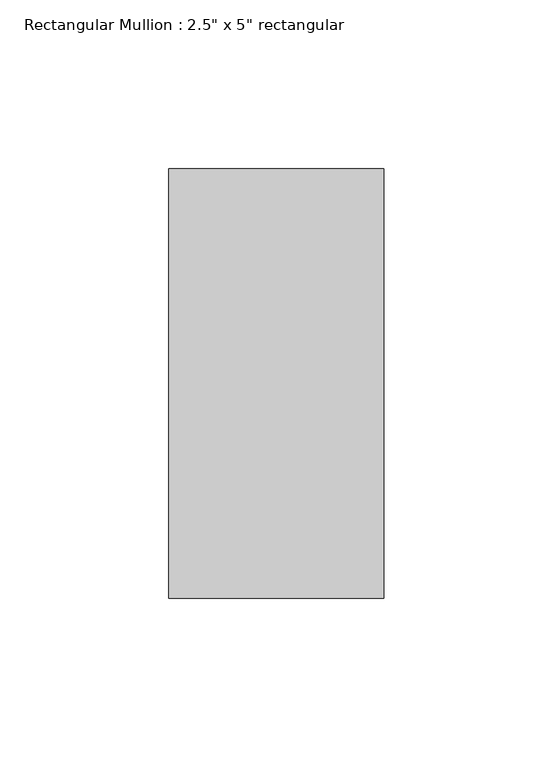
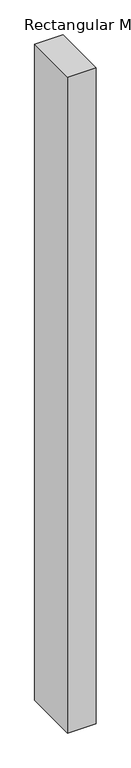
"""IFC4 building model written with IfcOpenShell, lengths in millimetres: member geometry."""

import ifcopenshell
import ifcopenshell.guid

model = None  # the IFC model being written
_history = None  # IfcOwnerHistory: only IFC2X3 demands one
_inside = {}  # id of a spatial element -> (the spatial element, [elements in it])
_under = {}  # id of a project, library or spatial element -> (it, [spatial elements below it])
_declared = {}  # id of a project -> (the project, [libraries it declares])
_typed = {}  # id of a type object -> (the type object, [elements of that type])
_made_of = {}  # id of a material, layer set ... -> (it, [elements and type objects made of it])


def new_model(schema):
    """Start an empty IFC model of exactly this schema.

    Asked for "IFC4X3", IfcOpenShell would pick the latest addendum, in which some entities
    have other attributes; the version numbers below select the first issue.
    IFC2X3 requires an IfcOwnerHistory on every rooted entity: one is made here for all.
    """
    global model, _history
    if schema == "IFC4X3":
        model = ifcopenshell.file(schema_version=(4, 3, 0, 0))
    else:
        model = ifcopenshell.file(schema=schema)
    _inside.clear()
    _under.clear()
    _declared.clear()
    _typed.clear()
    _made_of.clear()
    _history = None
    if model.schema == "IFC2X3":
        org = make("IfcOrganization", Name="unknown")
        user = make(
            "IfcPersonAndOrganization",
            ThePerson=make("IfcPerson", FamilyName="unknown"),
            TheOrganization=org,
        )
        app = make(
            "IfcApplication",
            ApplicationDeveloper=org,
            Version="unknown",
            ApplicationFullName="unknown",
            ApplicationIdentifier="unknown",
        )
        _history = make(
            "IfcOwnerHistory",
            OwningUser=user,
            OwningApplication=app,
            ChangeAction="ADDED",
            CreationDate=0,
        )
    return model


def make(cls, **values):
    """One entity of the class cls with the attributes given. An attribute that is None is left unset."""
    return model.create_entity(
        cls, **{name: value for name, value in values.items() if value is not None}
    )


def rooted(cls, **values):
    """An entity with a GlobalId (a new one), such as an element, a storey or a relation."""
    return make(cls, GlobalId=ifcopenshell.guid.new(), OwnerHistory=_history, **values)


def si_unit(unit_type, name, prefix=None):
    """IfcSIUnit, for example si_unit("LENGTHUNIT", "METRE", prefix="MILLI")."""
    return make("IfcSIUnit", UnitType=unit_type, Prefix=prefix, Name=name)


def assignment(units):
    """IfcUnitAssignment: the units of a project."""
    return None if units is None else make("IfcUnitAssignment", Units=units)


def point(xyz):
    """IfcCartesianPoint."""
    return None if xyz is None else make("IfcCartesianPoint", Coordinates=xyz)


def direction(xyz):
    """IfcDirection."""
    return None if xyz is None else make("IfcDirection", DirectionRatios=xyz)


def frame(location, z_axis=None, x_axis=None):
    """IfcAxis2Placement3D, a coordinate frame: its origin and axes. An axis left out is left unset."""
    return make(
        "IfcAxis2Placement3D",
        Location=point(location),
        Axis=direction(z_axis),
        RefDirection=direction(x_axis),
    )


def origin():
    """The frame at (0, 0, 0) with its axes left unset."""
    return frame((0.0, 0.0, 0.0))


def place(relative_to, where):
    """IfcLocalPlacement: puts the frame where relative to a parent placement (None: the world)."""
    return make(
        "IfcLocalPlacement", PlacementRelTo=relative_to, RelativePlacement=where
    )


def context(
    kind, dimensions, precision=None, world=None, true_north=None, identifier=None
):
    """IfcGeometricRepresentationContext, for example the 3D "Model" context."""
    return make(
        "IfcGeometricRepresentationContext",
        ContextIdentifier=identifier,
        ContextType=kind,
        CoordinateSpaceDimension=dimensions,
        Precision=precision,
        WorldCoordinateSystem=world,
        TrueNorth=true_north,
    )


def project(units=None, contexts=None):
    """IfcProject with its units and contexts."""
    return rooted(
        "IfcProject",
        Name="project",
        RepresentationContexts=contexts,
        UnitsInContext=assignment(units),
    )


def spatial(cls, under=None, at=None, **own):
    """A site, building, storey or space (cls), placed at a placement, below another one or the project."""
    s = rooted(cls, ObjectPlacement=at, **own)
    if under is not None:
        _under.setdefault(under.id(), (under, []))[1].append(s)
    return s


def polyline(points):
    """IfcPolyline through the points."""
    return make("IfcPolyline", Points=[point(p) for p in points])


def outline(outer, holes=None, kind="AREA"):
    """IfcArbitraryClosedProfileDef: a profile drawn as a closed curve; with holes, ...WithVoids."""
    if holes is None:
        return make("IfcArbitraryClosedProfileDef", ProfileType=kind, OuterCurve=outer)
    return make(
        "IfcArbitraryProfileDefWithVoids",
        ProfileType=kind,
        OuterCurve=outer,
        InnerCurves=holes,
    )


def extrude(swept, where, along, depth):
    """IfcExtrudedAreaSolid: the profile swept, set in the frame where, extruded along a direction by depth."""
    return make(
        "IfcExtrudedAreaSolid",
        SweptArea=swept,
        Position=where,
        ExtrudedDirection=direction(along),
        Depth=depth,
    )


def shape(context_of_items, identifier, shape_type, items):
    """IfcShapeRepresentation: the items that make up one representation, for example the "Body"."""
    return make(
        "IfcShapeRepresentation",
        ContextOfItems=context_of_items,
        RepresentationIdentifier=identifier,
        RepresentationType=shape_type,
        Items=items,
    )


def source(mapping_origin, context_of_items, identifier, shape_type, items):
    """IfcRepresentationMap: a shape defined once, which mapped items show again and again."""
    return make(
        "IfcRepresentationMap",
        MappingOrigin=mapping_origin,
        MappedRepresentation=shape(context_of_items, identifier, shape_type, items),
    )


def transform(
    local_origin,
    x_axis=None,
    y_axis=None,
    z_axis=None,
    scale=None,
    scale2=None,
    scale3=None,
    uniform=True,
):
    """IfcCartesianTransformationOperator3D, or its non-uniform kind. x_axis, y_axis, z_axis: its Axis1, 2, 3."""
    if uniform:
        return make(
            "IfcCartesianTransformationOperator3D",
            Axis1=direction(x_axis),
            Axis2=direction(y_axis),
            LocalOrigin=point(local_origin),
            Scale=scale,
            Axis3=direction(z_axis),
        )
    return make(
        "IfcCartesianTransformationOperator3DnonUniform",
        Axis1=direction(x_axis),
        Axis2=direction(y_axis),
        LocalOrigin=point(local_origin),
        Scale=scale,
        Axis3=direction(z_axis),
        Scale2=scale2,
        Scale3=scale3,
    )


def mapped(mapping_source, mapping_target):
    """IfcMappedItem: shows the shape of a source again, moved by a transform."""
    return make(
        "IfcMappedItem", MappingSource=mapping_source, MappingTarget=mapping_target
    )


def made_of(thing, what):
    """Note that an element or type object is made of a material, layer set ...; save() writes the relation."""
    if what is not None:
        _made_of.setdefault(what.id(), (what, []))[1].append(thing)
    return thing


def element(
    cls,
    number,
    at=None,
    inside=None,
    cuts=None,
    type_object=None,
    material=None,
    context=None,
    identifier="Body",
    shape_type=None,
    held_by="IfcProductDefinitionShape",
    body=None,
    shapes=None,
    **own,
):
    """One element of the class cls, such as IfcWall. Its Tag is "e" and its number.

    at: its placement. inside: the storey or other place that contains it. cuts: it is an
    opening in that element (IfcRelVoidsElement). A single representation is given by context,
    identifier, shape_type and body (its items); several are given by shapes. held_by: the class
    of the entity that holds the representations. save() writes the other relations.
    """
    e = rooted(cls, Tag="e%d" % number, ObjectPlacement=at, **own)
    if body is not None:
        shapes = [shape(context, identifier, shape_type, body)]
    if shapes is not None:
        e.Representation = make(held_by, Representations=shapes)
    if inside is not None:
        _inside.setdefault(inside.id(), (inside, []))[1].append(e)
    if cuts is not None:
        rooted(
            "IfcRelVoidsElement", RelatingBuildingElement=cuts, RelatedOpeningElement=e
        )
    if type_object is not None:
        _typed.setdefault(type_object.id(), (type_object, []))[1].append(e)
    return made_of(e, material)


def aggregate(whole, parts):
    """IfcRelAggregates: a whole, such as a stair, and the parts it consists of."""
    return rooted("IfcRelAggregates", RelatingObject=whole, RelatedObjects=parts)


def save(model, path):
    """Write the relations noted so far, then the file.

    IfcRelAggregates (storeys below a building ...), IfcRelContainedInSpatialStructure (elements
    in a storey), IfcRelDefinesByType, IfcRelAssociatesMaterial and IfcRelDeclares: one each for
    every whole, place, type object, material and project.
    """
    for whole, parts in _under.values():
        aggregate(whole, parts)
    for where, things in _inside.values():
        rooted(
            "IfcRelContainedInSpatialStructure",
            RelatedElements=things,
            RelatingStructure=where,
        )
    for kind, things in _typed.values():
        rooted("IfcRelDefinesByType", RelatedObjects=things, RelatingType=kind)
    for what, things in _made_of.values():
        rooted("IfcRelAssociatesMaterial", RelatedObjects=things, RelatingMaterial=what)
    for by, libraries in _declared.values():
        rooted("IfcRelDeclares", RelatingContext=by, RelatedDefinitions=libraries)
    model.write(path)


def member_117cba67(model_context):
    return source(origin(), model_context, "Body", "SweptSolid", [
        extrude(outline(polyline([(31.75, 63.5), (31.75, -63.5), (-31.75, -63.5), (-31.75, 63.5), (31.75, 63.5)])), frame((0.0, 0.0, -1545.43125), z_axis=(0.0, 0.0, 1.0), x_axis=(1.0, 0.0, 0.0)), (0.0, 0.0, 1.0), 1545.43125),
    ])


if __name__ == "__main__":
    model = new_model("IFC4")
    model_context = context("Model", 3, world=origin())
    ifc_project = project(units=[si_unit("LENGTHUNIT", "METRE", prefix="MILLI")], contexts=[model_context])
    site = spatial("IfcSite", under=ifc_project)
    building = spatial("IfcBuilding", under=site)
    placement = place(None, origin())
    member_shape = member_117cba67(model_context)
    element("IfcMember", 1, ObjectType="Rectangular Mullion : 2.5\" x 5\" rectangular", at=placement, inside=building, context=model_context, shape_type="MappedRepresentation", body=[
        mapped(member_shape, transform((0.0, 0.0, 0.0), x_axis=(1.0, 0.0, 0.0), y_axis=(0.0, 1.0, 0.0), z_axis=(0.0, 0.0, 1.0))),
    ])
    save(model, "model.ifc")
